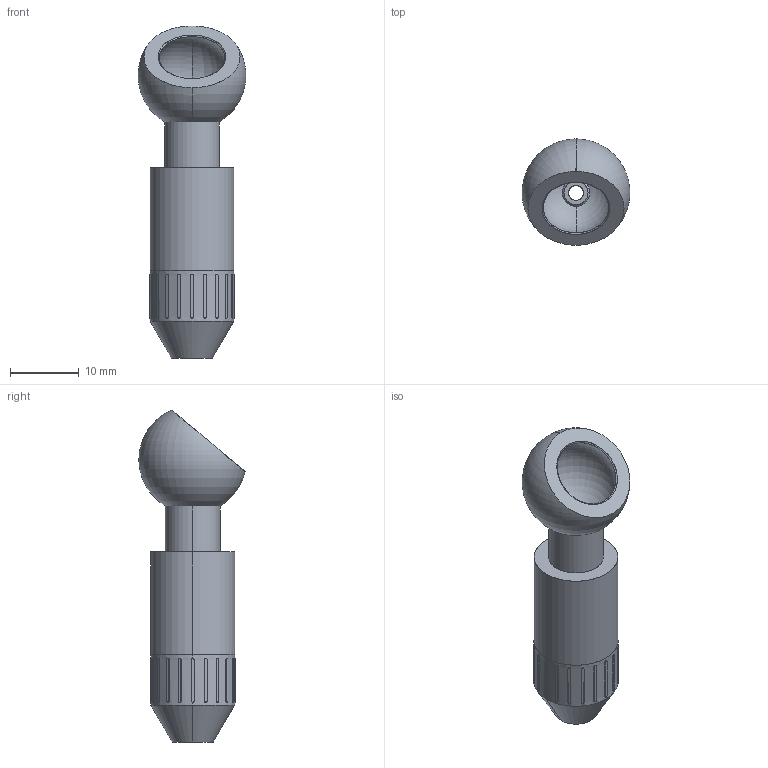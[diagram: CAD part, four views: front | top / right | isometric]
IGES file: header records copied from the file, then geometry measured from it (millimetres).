
Start section: SolidWorks IGES file using analytic representation for surfaces
Global section: file name: C:\Users\liam_\OneDrive\Documents\WORK\Work for WixRoyd\Job Files\J-00025 - Matt Davis CAD - 20191106\04. CAD Drawings\Wixroyd20191106\20056_v2\20056_v2_20191117_IGES\Default.igs; native system: SolidWorks 2017; preprocessor: SolidWorks 2017; author: liam_; date: 191117.213941; units: millimetre
Bounding box: 15.7 x 15.49 x 48.37 mm (x, y, z)
Surface area: 3539.9 mm2 (no closed solid volume)
Topology: 0 solids, 0 shells, 283 faces, 2491 edges, 2491 vertices
Faces by surface type: revolution 210, bspline 73
